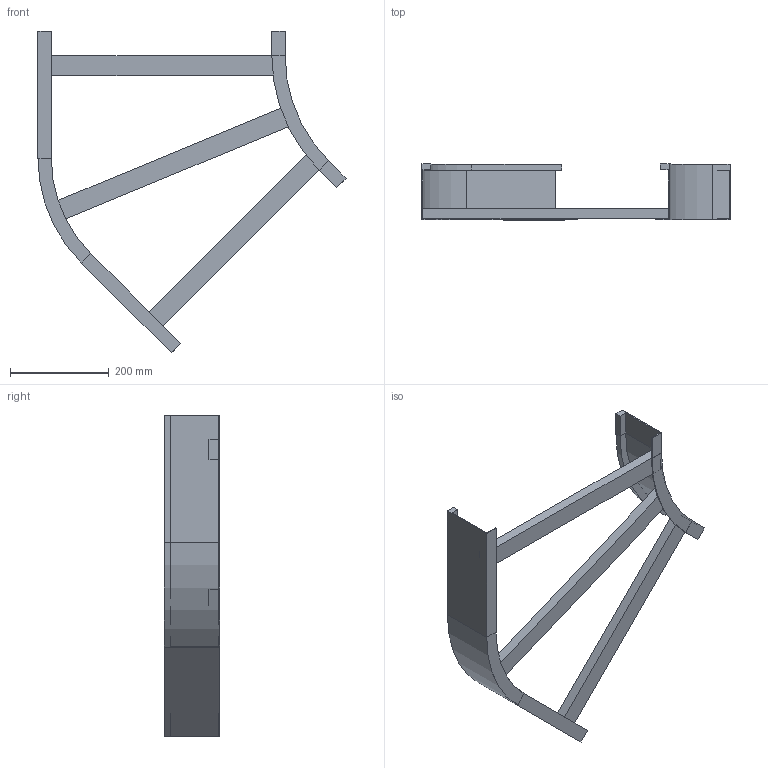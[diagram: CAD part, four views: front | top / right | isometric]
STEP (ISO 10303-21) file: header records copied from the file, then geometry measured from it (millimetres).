
FILE_DESCRIPTION (( 'STEP AP214' ), '1' );
FILE_NAME ('B2_11B3J500.step', '2025-02-21T15:14:57', ( '' ), ( '' ), 'SwSTEP 2.0', 'SolidWorks 2023', '' );
FILE_SCHEMA (( 'AUTOMOTIVE_DESIGN' ));
Length unit declared in the file: millimetre
Products named in the file (5): B2_11B3J500; B2_LONGH.ESTERNO 45°_H112.5_R300+500; B2_LONGH.INTERNO 45°_H112.5_R300; TRAVERSINO_500; TRAVERSINO_L536
Assembly tree (5 placements, depth 2):
  B2_11B3J500
    B2_LONGH.INTERNO 45°_H112.5_R300
    B2_LONGH.ESTERNO 45°_H112.5_R300+500
    TRAVERSINO_500  x2
    TRAVERSINO_L536
Bounding box: 623.22 x 112.5 x 651.04 mm (x, y, z)
Volume: 1744586.3 mm3; surface area: 529191.7 mm2
Topology: 5 solids, 5 shells, 70 faces, 148 edges, 88 vertices
Faces by surface type: plane 62, cylinder 8
Entity records: 1822 total; most frequent: DIRECTION 296, CARTESIAN_POINT 288, ORIENTED_EDGE 272, EDGE_CURVE 136, VECTOR 120, LINE 120, AXIS2_PLACEMENT_3D 88, VERTEX_POINT 80
